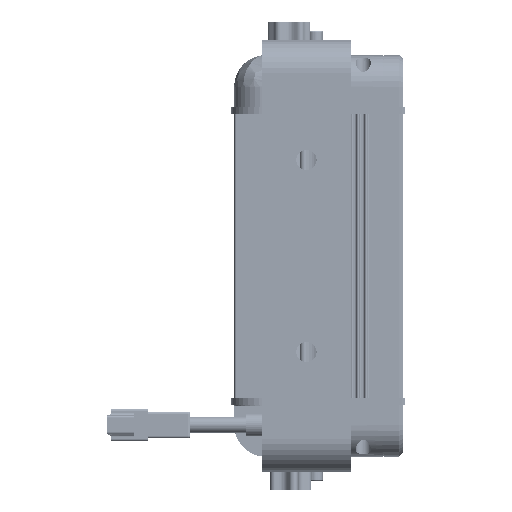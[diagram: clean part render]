
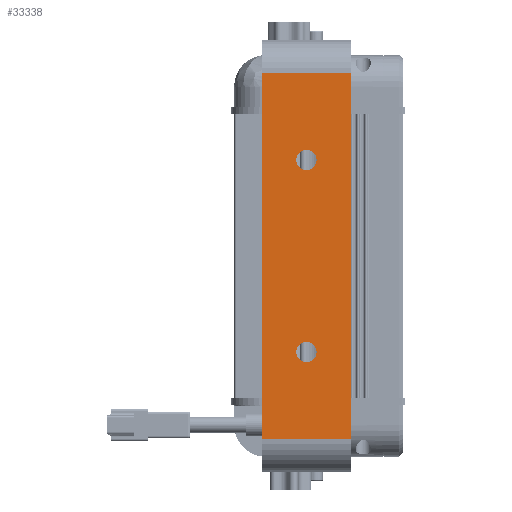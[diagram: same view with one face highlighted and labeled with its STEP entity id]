
A CAD part, front view. The second image highlights one B-rep face of the part: STEP entity #33338.
In plain terms, the highlighted planar face has unit normal (0, -1, 0).
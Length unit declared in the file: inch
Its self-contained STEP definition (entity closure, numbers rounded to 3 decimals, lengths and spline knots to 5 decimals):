
#949 = VERTEX_POINT ( 'NONE', #35900 ) ;
#1728 = CARTESIAN_POINT ( 'NONE',  ( 1.975, 0., 0.9075 ) ) ;
#2391 = CARTESIAN_POINT ( 'NONE',  ( 1.975, 0., 0.699 ) ) ;
#2461 = CARTESIAN_POINT ( 'NONE',  ( -1.975, 0., 0.9075 ) ) ;
#2611 = EDGE_LOOP ( 'NONE', ( #8982, #25245 ) ) ;
#4645 = DIRECTION ( 'NONE',  ( 0., 0., -1. ) ) ;
#4827 = DIRECTION ( 'NONE',  ( 0., 0., -1. ) ) ;
#4992 = LINE ( 'NONE', #21682, #13596 ) ;
#5356 = DIRECTION ( 'NONE',  ( 0., 0., 1. ) ) ;
#5859 = CARTESIAN_POINT ( 'NONE',  ( -1.975, 0., 0.9075 ) ) ;
#6149 = EDGE_CURVE ( 'NONE', #25818, #32655, #36296, .T. ) ;
#6187 = CARTESIAN_POINT ( 'NONE',  ( -1.975, 0., 1.116 ) ) ;
#6481 = EDGE_CURVE ( 'NONE', #9076, #28603, #33619, .T. ) ;
#6675 = VECTOR ( 'NONE', #19253, 39.37008 ) ;
#8256 = LINE ( 'NONE', #22544, #30503 ) ;
#8777 = DIRECTION ( 'NONE',  ( 0., 0., 1. ) ) ;
#8982 = ORIENTED_EDGE ( 'NONE', *, *, #6481, .T. ) ;
#9076 = VERTEX_POINT ( 'NONE', #36685 ) ;
#9354 = DIRECTION ( 'NONE',  ( 0., 1., 0. ) ) ;
#9502 = ORIENTED_EDGE ( 'NONE', *, *, #32509, .T. ) ;
#11027 = DIRECTION ( 'NONE',  ( -1., 0., 0. ) ) ;
#11258 = ORIENTED_EDGE ( 'NONE', *, *, #15259, .T. ) ;
#11921 = EDGE_LOOP ( 'NONE', ( #36822, #29702, #15662, #11258 ) ) ;
#12508 = CARTESIAN_POINT ( 'NONE',  ( -1.975, 0., 0.699 ) ) ;
#12528 = CARTESIAN_POINT ( 'NONE',  ( 3.7525, 0., 0. ) ) ;
#12815 = AXIS2_PLACEMENT_3D ( 'NONE', #2461, #22700, #5356 ) ;
#12970 = EDGE_CURVE ( 'NONE', #25818, #949, #8256, .T. ) ;
#13596 = VECTOR ( 'NONE', #24633, 39.37008 ) ;
#15259 = EDGE_CURVE ( 'NONE', #949, #19597, #29834, .T. ) ;
#15662 = ORIENTED_EDGE ( 'NONE', *, *, #12970, .T. ) ;
#16069 = DIRECTION ( 'NONE',  ( 0., -1., 0. ) ) ;
#16328 = CARTESIAN_POINT ( 'NONE',  ( -3.7525, 0., 1.815 ) ) ;
#19253 = DIRECTION ( 'NONE',  ( 0., 0., -1. ) ) ;
#19597 = VERTEX_POINT ( 'NONE', #33520 ) ;
#21682 = CARTESIAN_POINT ( 'NONE',  ( -4.44, 0., 0. ) ) ;
#21973 = DIRECTION ( 'NONE',  ( 0., 1., 0. ) ) ;
#22306 = EDGE_CURVE ( 'NONE', #28603, #9076, #24971, .T. ) ;
#22544 = CARTESIAN_POINT ( 'NONE',  ( -4.44, 0., 1.815 ) ) ;
#22700 = DIRECTION ( 'NONE',  ( 0., 1., 0. ) ) ;
#24633 = DIRECTION ( 'NONE',  ( -1., 0., 0. ) ) ;
#24770 = VERTEX_POINT ( 'NONE', #12508 ) ;
#24971 = CIRCLE ( 'NONE', #31092, 0.2085 ) ;
#25245 = ORIENTED_EDGE ( 'NONE', *, *, #22306, .T. ) ;
#25638 = AXIS2_PLACEMENT_3D ( 'NONE', #5859, #26153, #8777 ) ;
#25729 = EDGE_CURVE ( 'NONE', #32655, #19597, #4992, .T. ) ;
#25818 = VERTEX_POINT ( 'NONE', #30990 ) ;
#26153 = DIRECTION ( 'NONE',  ( 0., 1., 0. ) ) ;
#26734 = CARTESIAN_POINT ( 'NONE',  ( 1.975, 0., 0.9075 ) ) ;
#26964 = CIRCLE ( 'NONE', #12815, 0.2085 ) ;
#27587 = PLANE ( 'NONE',  #32017 ) ;
#27788 = AXIS2_PLACEMENT_3D ( 'NONE', #26734, #9354, #29657 ) ;
#28009 = CARTESIAN_POINT ( 'NONE',  ( 3.7525, 0., 1.815 ) ) ;
#28212 = VERTEX_POINT ( 'NONE', #6187 ) ;
#28603 = VERTEX_POINT ( 'NONE', #2391 ) ;
#29022 = EDGE_CURVE ( 'NONE', #24770, #28212, #34912, .T. ) ;
#29218 = FACE_BOUND ( 'NONE', #29713, .T. ) ;
#29657 = DIRECTION ( 'NONE',  ( 0., 0., -1. ) ) ;
#29702 = ORIENTED_EDGE ( 'NONE', *, *, #6149, .F. ) ;
#29713 = EDGE_LOOP ( 'NONE', ( #9502, #37146 ) ) ;
#29834 = LINE ( 'NONE', #16328, #6675 ) ;
#30143 = FACE_BOUND ( 'NONE', #2611, .T. ) ;
#30503 = VECTOR ( 'NONE', #11027, 39.37008 ) ;
#30990 = CARTESIAN_POINT ( 'NONE',  ( 3.7525, 0., 1.815 ) ) ;
#31092 = AXIS2_PLACEMENT_3D ( 'NONE', #1728, #21973, #4645 ) ;
#32017 = AXIS2_PLACEMENT_3D ( 'NONE', #33406, #16069, #36315 ) ;
#32509 = EDGE_CURVE ( 'NONE', #28212, #24770, #26964, .T. ) ;
#32655 = VERTEX_POINT ( 'NONE', #12528 ) ;
#33338 = ADVANCED_FACE ( 'NONE', ( #30143, #29218, #36894 ), #27587, .T. ) ;
#33406 = CARTESIAN_POINT ( 'NONE',  ( -4.44, 0., 1.815 ) ) ;
#33520 = CARTESIAN_POINT ( 'NONE',  ( -3.7525, 0., 0. ) ) ;
#33619 = CIRCLE ( 'NONE', #27788, 0.2085 ) ;
#34912 = CIRCLE ( 'NONE', #25638, 0.2085 ) ;
#35392 = VECTOR ( 'NONE', #4827, 39.37008 ) ;
#35900 = CARTESIAN_POINT ( 'NONE',  ( -3.7525, 0., 1.815 ) ) ;
#36296 = LINE ( 'NONE', #28009, #35392 ) ;
#36315 = DIRECTION ( 'NONE',  ( 0., 0., -1. ) ) ;
#36685 = CARTESIAN_POINT ( 'NONE',  ( 1.975, 0., 1.116 ) ) ;
#36822 = ORIENTED_EDGE ( 'NONE', *, *, #25729, .F. ) ;
#36894 = FACE_OUTER_BOUND ( 'NONE', #11921, .T. ) ;
#37146 = ORIENTED_EDGE ( 'NONE', *, *, #29022, .T. ) ;
